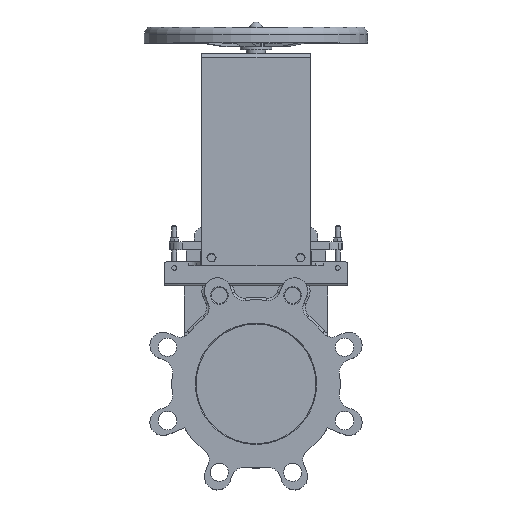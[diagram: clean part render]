
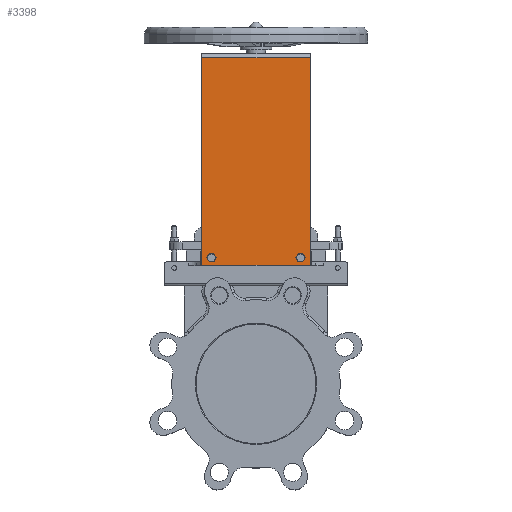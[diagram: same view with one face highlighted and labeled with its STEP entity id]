
A CAD part, top view. The second image highlights one B-rep face of the part: STEP entity #3398.
In plain terms, the highlighted planar face has unit normal (0, 0, 1).
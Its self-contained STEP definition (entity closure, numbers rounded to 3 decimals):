
#3398=ADVANCED_FACE('',(#9931,#9933,#9935),#9937,.F.);
#9931=FACE_BOUND('',#9932,.T.);
#9932=EDGE_LOOP('',(#15404,#15405,#15406,#15407));
#9933=FACE_BOUND('',#9934,.T.);
#9934=EDGE_LOOP('',(#15408));
#9935=FACE_BOUND('',#9936,.T.);
#9936=EDGE_LOOP('',(#15409));
#9937=PLANE('',#9938);
#9938=AXIS2_PLACEMENT_3D('',#9939,#9940,#9941);
#9939=CARTESIAN_POINT('',(0.,265.527,31.5));
#9940=DIRECTION('',(0.,0.,-1.));
#9941=DIRECTION('',(-1.,0.,0.));
#15404=ORIENTED_EDGE('',*,*,#18116,.F.);
#15405=ORIENTED_EDGE('',*,*,#17931,.F.);
#15406=ORIENTED_EDGE('',*,*,#17995,.F.);
#15407=ORIENTED_EDGE('',*,*,#17947,.F.);
#15408=ORIENTED_EDGE('',*,*,#18117,.F.);
#15409=ORIENTED_EDGE('',*,*,#18118,.F.);
#17931=EDGE_CURVE('',#20524,#20526,#20527,.T.);
#17947=EDGE_CURVE('',#20553,#20555,#20556,.T.);
#17995=EDGE_CURVE('',#20555,#20524,#20612,.T.);
#18116=EDGE_CURVE('',#20526,#20553,#20803,.T.);
#18117=EDGE_CURVE('',#20804,#20804,#20805,.F.);
#18118=EDGE_CURVE('',#20806,#20806,#20807,.T.);
#20524=VERTEX_POINT('',#31526);
#20526=VERTEX_POINT('',#31530);
#20527=LINE('',#31531,#31532);
#20553=VERTEX_POINT('',#31592);
#20555=VERTEX_POINT('',#31597);
#20556=LINE('',#31598,#31599);
#20612=LINE('',#31823,#31824);
#20803=LINE('',#32902,#32903);
#20804=VERTEX_POINT('',#32905);
#20805=CIRCLE('',#32906,5.);
#20806=VERTEX_POINT('',#32910);
#20807=CIRCLE('',#32911,5.);
#31526=CARTESIAN_POINT('',(-68.144,148.912,31.5));
#31530=CARTESIAN_POINT('',(-68.144,408.527,31.5));
#31531=CARTESIAN_POINT('',(-68.144,148.912,31.5));
#31532=VECTOR('',#31533,1.);
#31533=DIRECTION('',(0.,1.,0.));
#31592=CARTESIAN_POINT('',(68.144,408.527,31.5));
#31597=CARTESIAN_POINT('',(68.144,148.912,31.5));
#31598=CARTESIAN_POINT('',(68.144,408.527,31.5));
#31599=VECTOR('',#31600,1.);
#31600=DIRECTION('',(0.,-1.,0.));
#31823=CARTESIAN_POINT('',(68.144,148.912,31.5));
#31824=VECTOR('',#31825,1.);
#31825=DIRECTION('',(-1.,0.,0.));
#32902=CARTESIAN_POINT('',(-68.144,408.527,31.5));
#32903=VECTOR('',#32904,1.);
#32904=DIRECTION('',(1.,0.,0.));
#32905=CARTESIAN_POINT('',(-50.837,157.912,31.5));
#32906=AXIS2_PLACEMENT_3D('',#32907,#32908,#32909);
#32907=CARTESIAN_POINT('',(-55.837,157.912,31.5));
#32908=DIRECTION('',(0.,0.,-1.));
#32909=DIRECTION('',(1.,0.,0.));
#32910=CARTESIAN_POINT('',(50.837,157.912,31.5));
#32911=AXIS2_PLACEMENT_3D('',#32912,#32913,#32914);
#32912=CARTESIAN_POINT('',(55.837,157.912,31.5));
#32913=DIRECTION('',(0.,0.,1.));
#32914=DIRECTION('',(-1.,0.,0.));
